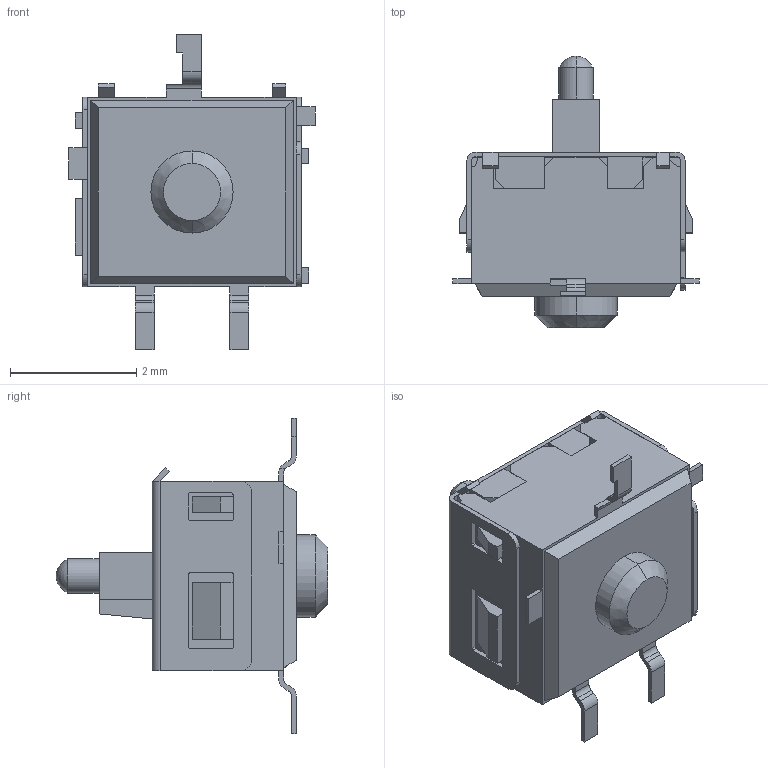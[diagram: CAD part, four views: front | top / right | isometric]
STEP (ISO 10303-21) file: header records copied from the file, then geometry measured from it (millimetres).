
FILE_DESCRIPTION (( 'STEP AP214' ), '1' );
FILE_NAME ('SPVE110600.STEP', '2012-08-03T02:36:51', ( '' ), ( '' ), 'SwSTEP 2.0', 'SolidWorks 2010', '' );
FILE_SCHEMA (( 'AUTOMOTIVE_DESIGN' ));
Length unit declared in the file: millimetre
Products named in the file (1): SPVE110600
Bounding box: 3.9 x 4.3 x 5 mm (x, y, z)
Volume: 24.3 mm3; surface area: 94.2 mm2
Topology: 5 solids, 5 shells, 228 faces, 638 edges, 421 vertices
Faces by surface type: plane 178, cylinder 46, cone 2, sphere 2
Entity records: 9040 total; most frequent: CARTESIAN_POINT 1288, ORIENTED_EDGE 1276, DIRECTION 1200, EDGE_CURVE 638, LINE 534, VECTOR 534, VERTEX_POINT 421, AXIS2_PLACEMENT_3D 333
